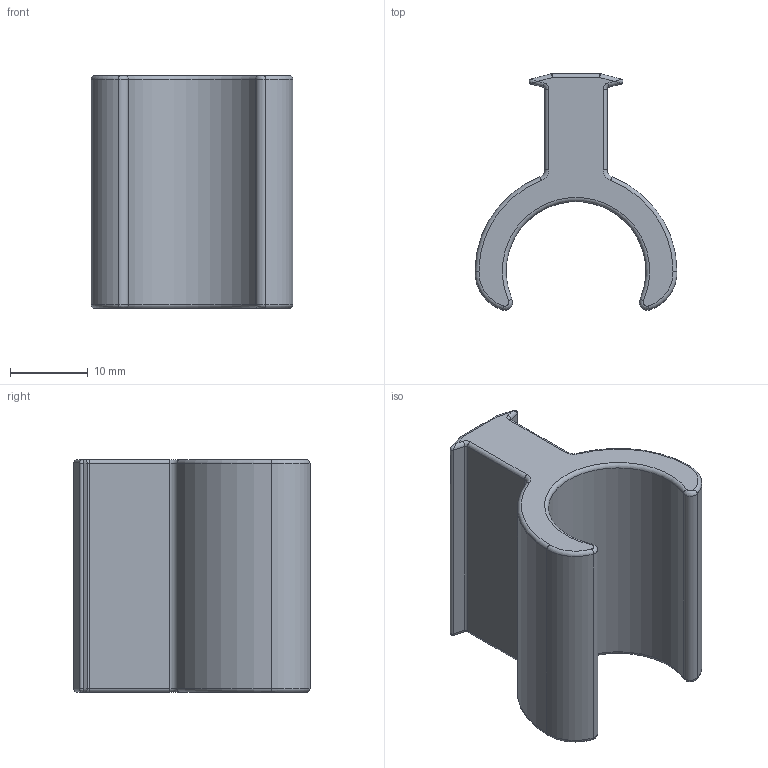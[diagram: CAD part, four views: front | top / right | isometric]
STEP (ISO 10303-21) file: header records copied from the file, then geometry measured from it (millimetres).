
FILE_DESCRIPTION(/* description */ ('GUIDE RAIL SUPPORT 25.5 MM'),/* implementation_level */ '2;1');
FILE_NAME(/* name */ '\\carryline.intra\privat\users\mathias\Desktop\Tillfälliga filer\300-1035.stp',/* time_stamp */ '2018-11-30T08:58:51+01:00',/* author */ ('MOB'),/* organization */ ('CARRYLINE'),/* preprocessor_version */ 'ST-DEVELOPER v17',/* originating_system */ 'Autodesk Inventor 2018',/* authorisation */ '');
FILE_SCHEMA (('AUTOMOTIVE_DESIGN { 1 0 10303 214 3 1 1 }'));
Length unit declared in the file: millimetre
Products named in the file (1): 300-1035
Bounding box: 26 x 30.44 x 30 mm (x, y, z)
Volume: 8191.2 mm3; surface area: 4389.3 mm2
Topology: 1 solids, 1 shells, 70 faces, 161 edges, 85 vertices
Faces by surface type: cylinder 30, torus 18, bspline 12, plane 9, cone 1
Full cylindrical faces by diameter (mm): 4 x1
Entity records: 2249 total; most frequent: CARTESIAN_POINT 666, DIRECTION 362, ORIENTED_EDGE 304, AXIS2_PLACEMENT_3D 155, EDGE_CURVE 152, VERTEX_POINT 85, CIRCLE 80, EDGE_LOOP 71
